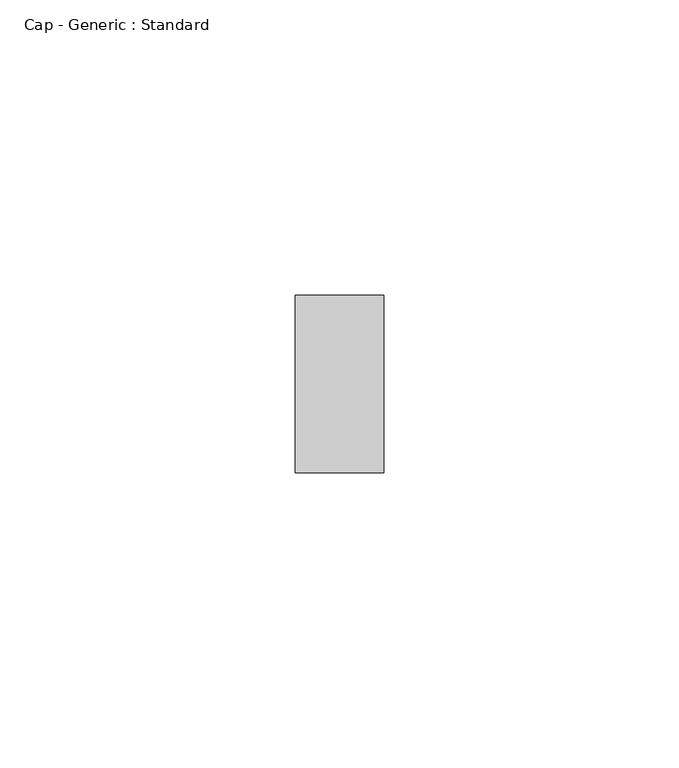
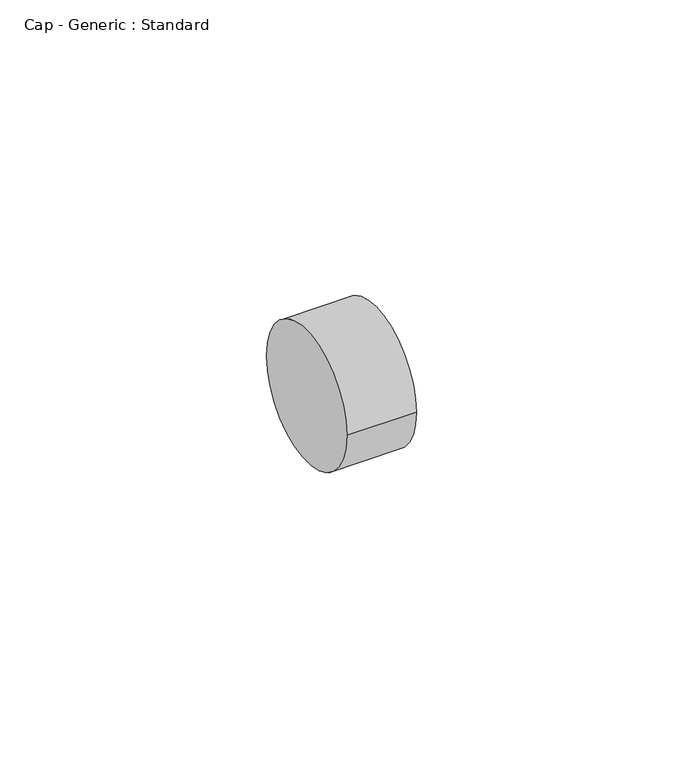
"""IFC4 building model written with IfcOpenShell, lengths in millimetres: pipe fitting geometry, Cap - Generic : Standard."""

import ifcopenshell
import ifcopenshell.guid

model = None  # the IFC model being written
_history = None  # IfcOwnerHistory: only IFC2X3 demands one
_inside = {}  # id of a spatial element -> (the spatial element, [elements in it])
_under = {}  # id of a project, library or spatial element -> (it, [spatial elements below it])
_declared = {}  # id of a project -> (the project, [libraries it declares])
_typed = {}  # id of a type object -> (the type object, [elements of that type])
_made_of = {}  # id of a material, layer set ... -> (it, [elements and type objects made of it])


def new_model(schema):
    """Start an empty IFC model of exactly this schema.

    Asked for "IFC4X3", IfcOpenShell would pick the latest addendum, in which some entities
    have other attributes; the version numbers below select the first issue.
    IFC2X3 requires an IfcOwnerHistory on every rooted entity: one is made here for all.
    """
    global model, _history
    if schema == "IFC4X3":
        model = ifcopenshell.file(schema_version=(4, 3, 0, 0))
    else:
        model = ifcopenshell.file(schema=schema)
    _inside.clear()
    _under.clear()
    _declared.clear()
    _typed.clear()
    _made_of.clear()
    _history = None
    if model.schema == "IFC2X3":
        org = make("IfcOrganization", Name="unknown")
        user = make(
            "IfcPersonAndOrganization",
            ThePerson=make("IfcPerson", FamilyName="unknown"),
            TheOrganization=org,
        )
        app = make(
            "IfcApplication",
            ApplicationDeveloper=org,
            Version="unknown",
            ApplicationFullName="unknown",
            ApplicationIdentifier="unknown",
        )
        _history = make(
            "IfcOwnerHistory",
            OwningUser=user,
            OwningApplication=app,
            ChangeAction="ADDED",
            CreationDate=0,
        )
    return model


def make(cls, **values):
    """One entity of the class cls with the attributes given. An attribute that is None is left unset."""
    return model.create_entity(
        cls, **{name: value for name, value in values.items() if value is not None}
    )


def rooted(cls, **values):
    """An entity with a GlobalId (a new one), such as an element, a storey or a relation."""
    return make(cls, GlobalId=ifcopenshell.guid.new(), OwnerHistory=_history, **values)


def si_unit(unit_type, name, prefix=None):
    """IfcSIUnit, for example si_unit("LENGTHUNIT", "METRE", prefix="MILLI")."""
    return make("IfcSIUnit", UnitType=unit_type, Prefix=prefix, Name=name)


def assignment(units):
    """IfcUnitAssignment: the units of a project."""
    return None if units is None else make("IfcUnitAssignment", Units=units)


def point(xyz):
    """IfcCartesianPoint."""
    return None if xyz is None else make("IfcCartesianPoint", Coordinates=xyz)


def direction(xyz):
    """IfcDirection."""
    return None if xyz is None else make("IfcDirection", DirectionRatios=xyz)


def frame(location, z_axis=None, x_axis=None):
    """IfcAxis2Placement3D, a coordinate frame: its origin and axes. An axis left out is left unset."""
    return make(
        "IfcAxis2Placement3D",
        Location=point(location),
        Axis=direction(z_axis),
        RefDirection=direction(x_axis),
    )


def frame_2d(location, x_axis=None):
    """IfcAxis2Placement2D, a coordinate frame in the plane: its origin and x axis."""
    return make(
        "IfcAxis2Placement2D", Location=point(location), RefDirection=direction(x_axis)
    )


def origin():
    """The frame at (0, 0, 0) with its axes left unset."""
    return frame((0.0, 0.0, 0.0))


def origin_2d():
    """The frame at (0, 0) in the plane with its x axis left unset."""
    return frame_2d((0.0, 0.0))


def place(relative_to, where):
    """IfcLocalPlacement: puts the frame where relative to a parent placement (None: the world)."""
    return make(
        "IfcLocalPlacement", PlacementRelTo=relative_to, RelativePlacement=where
    )


def context(
    kind, dimensions, precision=None, world=None, true_north=None, identifier=None
):
    """IfcGeometricRepresentationContext, for example the 3D "Model" context."""
    return make(
        "IfcGeometricRepresentationContext",
        ContextIdentifier=identifier,
        ContextType=kind,
        CoordinateSpaceDimension=dimensions,
        Precision=precision,
        WorldCoordinateSystem=world,
        TrueNorth=true_north,
    )


def project(units=None, contexts=None):
    """IfcProject with its units and contexts."""
    return rooted(
        "IfcProject",
        Name="project",
        RepresentationContexts=contexts,
        UnitsInContext=assignment(units),
    )


def spatial(cls, under=None, at=None, **own):
    """A site, building, storey or space (cls), placed at a placement, below another one or the project."""
    s = rooted(cls, ObjectPlacement=at, **own)
    if under is not None:
        _under.setdefault(under.id(), (under, []))[1].append(s)
    return s


def circle_curve(where, radius):
    """IfcCircle in the frame where."""
    return make("IfcCircle", Position=where, Radius=radius)


def trimmed(basis, trim1, trim2, sense, master):
    """IfcTrimmedCurve: the piece of a basis curve between two trims."""
    return make(
        "IfcTrimmedCurve",
        BasisCurve=basis,
        Trim1=trim1,
        Trim2=trim2,
        SenseAgreement=sense,
        MasterRepresentation=master,
    )


def segment(curve, same_sense, transition):
    """IfcCompositeCurveSegment."""
    return make(
        "IfcCompositeCurveSegment",
        Transition=transition,
        SameSense=same_sense,
        ParentCurve=curve,
    )


def composite_curve(segments, self_intersect=None):
    """IfcCompositeCurve: segments joined end to end."""
    return make("IfcCompositeCurve", Segments=segments, SelfIntersect=self_intersect)


def outline(outer, holes=None, kind="AREA"):
    """IfcArbitraryClosedProfileDef: a profile drawn as a closed curve; with holes, ...WithVoids."""
    if holes is None:
        return make("IfcArbitraryClosedProfileDef", ProfileType=kind, OuterCurve=outer)
    return make(
        "IfcArbitraryProfileDefWithVoids",
        ProfileType=kind,
        OuterCurve=outer,
        InnerCurves=holes,
    )


def extrude(swept, where, along, depth):
    """IfcExtrudedAreaSolid: the profile swept, set in the frame where, extruded along a direction by depth."""
    return make(
        "IfcExtrudedAreaSolid",
        SweptArea=swept,
        Position=where,
        ExtrudedDirection=direction(along),
        Depth=depth,
    )


def shape(context_of_items, identifier, shape_type, items):
    """IfcShapeRepresentation: the items that make up one representation, for example the "Body"."""
    return make(
        "IfcShapeRepresentation",
        ContextOfItems=context_of_items,
        RepresentationIdentifier=identifier,
        RepresentationType=shape_type,
        Items=items,
    )


def source(mapping_origin, context_of_items, identifier, shape_type, items):
    """IfcRepresentationMap: a shape defined once, which mapped items show again and again."""
    return make(
        "IfcRepresentationMap",
        MappingOrigin=mapping_origin,
        MappedRepresentation=shape(context_of_items, identifier, shape_type, items),
    )


def transform(
    local_origin,
    x_axis=None,
    y_axis=None,
    z_axis=None,
    scale=None,
    scale2=None,
    scale3=None,
    uniform=True,
):
    """IfcCartesianTransformationOperator3D, or its non-uniform kind. x_axis, y_axis, z_axis: its Axis1, 2, 3."""
    if uniform:
        return make(
            "IfcCartesianTransformationOperator3D",
            Axis1=direction(x_axis),
            Axis2=direction(y_axis),
            LocalOrigin=point(local_origin),
            Scale=scale,
            Axis3=direction(z_axis),
        )
    return make(
        "IfcCartesianTransformationOperator3DnonUniform",
        Axis1=direction(x_axis),
        Axis2=direction(y_axis),
        LocalOrigin=point(local_origin),
        Scale=scale,
        Axis3=direction(z_axis),
        Scale2=scale2,
        Scale3=scale3,
    )


def mapped(mapping_source, mapping_target):
    """IfcMappedItem: shows the shape of a source again, moved by a transform."""
    return make(
        "IfcMappedItem", MappingSource=mapping_source, MappingTarget=mapping_target
    )


def made_of(thing, what):
    """Note that an element or type object is made of a material, layer set ...; save() writes the relation."""
    if what is not None:
        _made_of.setdefault(what.id(), (what, []))[1].append(thing)
    return thing


def element(
    cls,
    number,
    at=None,
    inside=None,
    cuts=None,
    type_object=None,
    material=None,
    context=None,
    identifier="Body",
    shape_type=None,
    held_by="IfcProductDefinitionShape",
    body=None,
    shapes=None,
    **own,
):
    """One element of the class cls, such as IfcWall. Its Tag is "e" and its number.

    at: its placement. inside: the storey or other place that contains it. cuts: it is an
    opening in that element (IfcRelVoidsElement). A single representation is given by context,
    identifier, shape_type and body (its items); several are given by shapes. held_by: the class
    of the entity that holds the representations. save() writes the other relations.
    """
    e = rooted(cls, Tag="e%d" % number, ObjectPlacement=at, **own)
    if body is not None:
        shapes = [shape(context, identifier, shape_type, body)]
    if shapes is not None:
        e.Representation = make(held_by, Representations=shapes)
    if inside is not None:
        _inside.setdefault(inside.id(), (inside, []))[1].append(e)
    if cuts is not None:
        rooted(
            "IfcRelVoidsElement", RelatingBuildingElement=cuts, RelatedOpeningElement=e
        )
    if type_object is not None:
        _typed.setdefault(type_object.id(), (type_object, []))[1].append(e)
    return made_of(e, material)


def aggregate(whole, parts):
    """IfcRelAggregates: a whole, such as a stair, and the parts it consists of."""
    return rooted("IfcRelAggregates", RelatingObject=whole, RelatedObjects=parts)


def save(model, path):
    """Write the relations noted so far, then the file.

    IfcRelAggregates (storeys below a building ...), IfcRelContainedInSpatialStructure (elements
    in a storey), IfcRelDefinesByType, IfcRelAssociatesMaterial and IfcRelDeclares: one each for
    every whole, place, type object, material and project.
    """
    for whole, parts in _under.values():
        aggregate(whole, parts)
    for where, things in _inside.values():
        rooted(
            "IfcRelContainedInSpatialStructure",
            RelatedElements=things,
            RelatingStructure=where,
        )
    for kind, things in _typed.values():
        rooted("IfcRelDefinesByType", RelatedObjects=things, RelatingType=kind)
    for what, things in _made_of.values():
        rooted("IfcRelAssociatesMaterial", RelatedObjects=things, RelatingMaterial=what)
    for by, libraries in _declared.values():
        rooted("IfcRelDeclares", RelatingContext=by, RelatedDefinitions=libraries)
    model.write(path)


def cap_generic_standard_e9c552d8(model_context):
    return source(origin(), model_context, "Body", "SweptSolid", [
        extrude(outline(composite_curve([segment(trimmed(circle_curve(origin_2d(), 15.08125), [point((-15.08125, 0.0))], [point((15.08125, 0.0))], False, "CARTESIAN"), True, "CONTINUOUS"), segment(trimmed(circle_curve(origin_2d(), 15.08125), [point((15.08125, 0.0))], [point((-15.08125, 0.0))], False, "CARTESIAN"), True, "CONTINUOUS")], self_intersect=False)), frame((0.0, 0.0, 0.0), z_axis=(1.0, 0.0, 0.0), x_axis=(0.0, 1.0, 0.0)), (0.0, 0.0, 1.0), 15.08125),
    ])


if __name__ == "__main__":
    model = new_model("IFC4")
    model_context = context("Model", 3, world=origin())
    ifc_project = project(units=[si_unit("LENGTHUNIT", "METRE", prefix="MILLI")], contexts=[model_context])
    site = spatial("IfcSite", under=ifc_project)
    building = spatial("IfcBuilding", under=site)
    placement = place(None, origin())
    cap_generic_standard_shape = cap_generic_standard_e9c552d8(model_context)
    element("IfcPipeFitting", 1, ObjectType="Cap - Generic : Standard", at=placement, inside=building, context=model_context, shape_type="MappedRepresentation", body=[
        mapped(cap_generic_standard_shape, transform((0.0, 0.0, 0.0), x_axis=(1.0, 0.0, 0.0), y_axis=(0.0, 1.0, 0.0), z_axis=(0.0, 0.0, 1.0))),
    ])
    save(model, "model.ifc")
